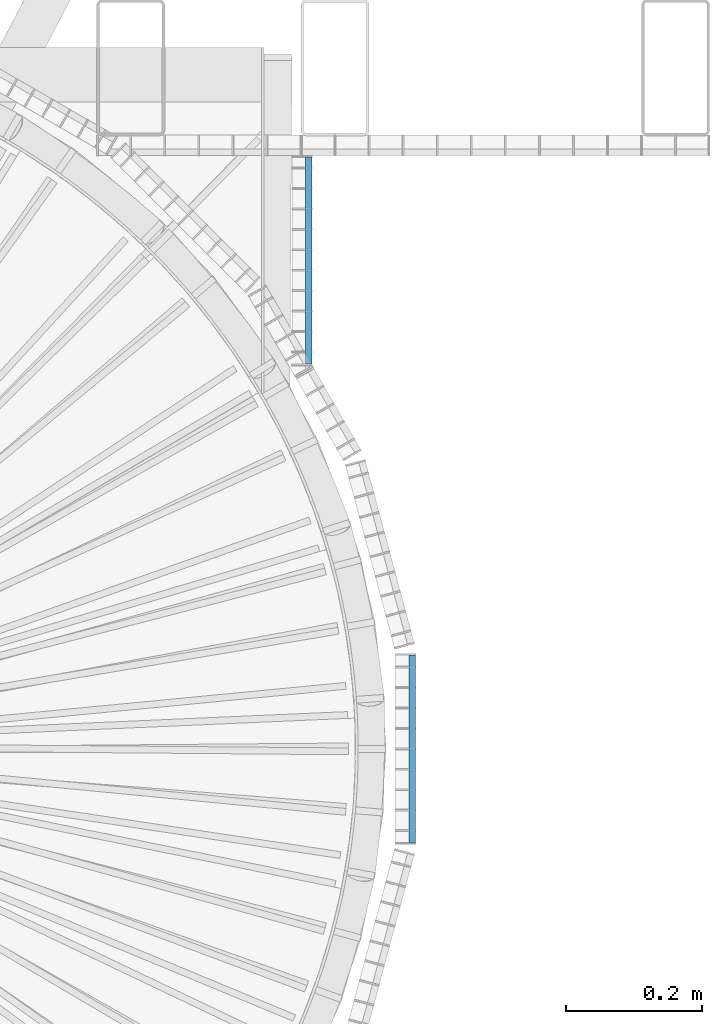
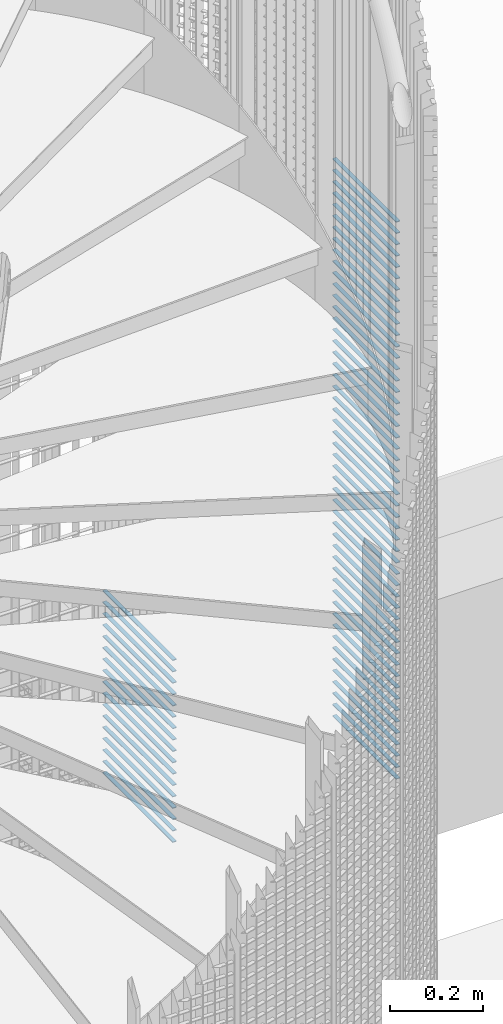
# One storey, part 278 of 1183: 67 beams, 2 elements without a shape of their own.
"""IFC2X3 building model written with IfcOpenShell, lengths in millimetres."""

from ifc_helpers import new_model, si_unit, frame, origin_with_axes, origin_2d_with_axis, place, context, subcontext, project, spatial, rectangle, extrude, material, type_object, element, aggregate, save


model = new_model("IFC2X3")

# Units and contexts
model_context = context("Model", 3, precision=1e-05, world=origin_with_axes())
body_context = subcontext(model_context, "Body", "Model", "MODEL_VIEW")
ifc_project = project(units=[si_unit("LENGTHUNIT", "METRE", prefix="MILLI"), si_unit("AREAUNIT", "SQUARE_METRE"), si_unit("VOLUMEUNIT", "CUBIC_METRE"), si_unit("MASSUNIT", "GRAM", prefix="KILO"), si_unit("TIMEUNIT", "SECOND"), si_unit("PLANEANGLEUNIT", "RADIAN"), si_unit("SOLIDANGLEUNIT", "STERADIAN"), si_unit("THERMODYNAMICTEMPERATUREUNIT", "DEGREE_CELSIUS"), si_unit("LUMINOUSINTENSITYUNIT", "LUMEN")], contexts=[model_context])

# Site, building, storey
site_placement = place(None, origin_with_axes())
site = spatial("IfcSite", under=ifc_project, at=site_placement, Name="Undefined", CompositionType="ELEMENT")
building_placement = place(site_placement, origin_with_axes())
building = spatial("IfcBuilding", under=site, at=building_placement, Name="Undefined", CompositionType="ELEMENT")
storey_placement = place(building_placement, origin_with_axes())
storey = spatial("IfcBuildingStorey", under=building, at=storey_placement, Name="Undefined", CompositionType="ELEMENT", Elevation=0.0)

# Assembly, beams
assembly_1_placement = place(storey_placement, origin_with_axes())
assembly_1 = element("IfcElementAssembly", 1, at=assembly_1_placement, inside=storey, Name="BORDURE", AssemblyPlace="NOTDEFINED", PredefinedType="NOTDEFINED")
ifc_material = material(Name="STEEL/S235JR")
beam_type = type_object("IfcBeamType", Name="PL2*10", PredefinedType="NOTDEFINED")
beam_1_placement = place(assembly_1_placement, frame((1113.47999999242, -137.996003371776, 16500.0), z_axis=(1.0, 0.0, 0.0), x_axis=(0.0, 1.0, 0.0)))
beam_1 = element("IfcBeam", 2, at=beam_1_placement, type_object=beam_type, material=ifc_material, Name="ENTRETOISE", context=body_context, shape_type="SweptSolid", body=[
    extrude(rectangle(XDim=2.0, YDim=10.0, at=origin_2d_with_axis()), frame((275.999999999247, 9.09494701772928e-13, 1.53210777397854e-14), z_axis=(-1.0, 0.0, 0.0), x_axis=(0.0, -1.0, 0.0)), (0.0, 0.0, 1.0), 276.0),
])
beam_2_placement = place(assembly_1_placement, frame((1113.47999999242, -137.996003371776, 16470.0), z_axis=(1.0, 0.0, 0.0), x_axis=(0.0, 1.0, 0.0)))
beam_2 = element("IfcBeam", 3, at=beam_2_placement, type_object=beam_type, material=ifc_material, Name="ENTRETOISE", context=body_context, shape_type="SweptSolid", body=[
    extrude(rectangle(XDim=2.0, YDim=10.0, at=origin_2d_with_axis()), frame((275.999999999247, 9.09494701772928e-13, 1.53210777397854e-14), z_axis=(-1.0, 0.0, 0.0), x_axis=(0.0, -1.0, 0.0)), (0.0, 0.0, 1.0), 276.0),
])
beam_3_placement = place(assembly_1_placement, frame((1113.47999999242, -137.996003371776, 16440.0), z_axis=(1.0, 0.0, 0.0), x_axis=(0.0, 1.0, 0.0)))
beam_3 = element("IfcBeam", 4, at=beam_3_placement, type_object=beam_type, material=ifc_material, Name="ENTRETOISE", context=body_context, shape_type="SweptSolid", body=[
    extrude(rectangle(XDim=2.0, YDim=10.0, at=origin_2d_with_axis()), frame((275.999999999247, 9.09494701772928e-13, 1.53210777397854e-14), z_axis=(-1.0, 0.0, 0.0), x_axis=(0.0, -1.0, 0.0)), (0.0, 0.0, 1.0), 276.0),
])
beam_4_placement = place(assembly_1_placement, frame((1113.47999999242, -137.996003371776, 16410.0), z_axis=(1.0, 0.0, 0.0), x_axis=(0.0, 1.0, 0.0)))
beam_4 = element("IfcBeam", 5, at=beam_4_placement, type_object=beam_type, material=ifc_material, Name="ENTRETOISE", context=body_context, shape_type="SweptSolid", body=[
    extrude(rectangle(XDim=2.0, YDim=10.0, at=origin_2d_with_axis()), frame((275.999999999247, 9.09494701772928e-13, 1.53210777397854e-14), z_axis=(-1.0, 0.0, 0.0), x_axis=(0.0, -1.0, 0.0)), (0.0, 0.0, 1.0), 276.0),
])
beam_5_placement = place(assembly_1_placement, frame((1113.47999999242, -137.996003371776, 16380.0), z_axis=(1.0, 0.0, 0.0), x_axis=(0.0, 1.0, 0.0)))
beam_5 = element("IfcBeam", 6, at=beam_5_placement, type_object=beam_type, material=ifc_material, Name="ENTRETOISE", context=body_context, shape_type="SweptSolid", body=[
    extrude(rectangle(XDim=2.0, YDim=10.0, at=origin_2d_with_axis()), frame((275.999999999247, 9.09494701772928e-13, 1.53210777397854e-14), z_axis=(-1.0, 0.0, 0.0), x_axis=(0.0, -1.0, 0.0)), (0.0, 0.0, 1.0), 276.0),
])
beam_6_placement = place(assembly_1_placement, frame((1113.47999999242, -137.996003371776, 16350.0), z_axis=(1.0, 0.0, 0.0), x_axis=(0.0, 1.0, 0.0)))
beam_6 = element("IfcBeam", 7, at=beam_6_placement, type_object=beam_type, material=ifc_material, Name="ENTRETOISE", context=body_context, shape_type="SweptSolid", body=[
    extrude(rectangle(XDim=2.0, YDim=10.0, at=origin_2d_with_axis()), frame((275.999999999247, 9.09494701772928e-13, 1.53210777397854e-14), z_axis=(-1.0, 0.0, 0.0), x_axis=(0.0, -1.0, 0.0)), (0.0, 0.0, 1.0), 276.0),
])
beam_7_placement = place(assembly_1_placement, frame((1113.47999999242, -137.996003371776, 16320.0), z_axis=(1.0, 0.0, 0.0), x_axis=(0.0, 1.0, 0.0)))
beam_7 = element("IfcBeam", 8, at=beam_7_placement, type_object=beam_type, material=ifc_material, Name="ENTRETOISE", context=body_context, shape_type="SweptSolid", body=[
    extrude(rectangle(XDim=2.0, YDim=10.0, at=origin_2d_with_axis()), frame((275.999999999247, 9.09494701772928e-13, 1.53210777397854e-14), z_axis=(-1.0, 0.0, 0.0), x_axis=(0.0, -1.0, 0.0)), (0.0, 0.0, 1.0), 276.0),
])
beam_8_placement = place(assembly_1_placement, frame((1113.47999999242, -137.996003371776, 16290.0), z_axis=(1.0, 0.0, 0.0), x_axis=(0.0, 1.0, 0.0)))
beam_8 = element("IfcBeam", 9, at=beam_8_placement, type_object=beam_type, material=ifc_material, Name="ENTRETOISE", context=body_context, shape_type="SweptSolid", body=[
    extrude(rectangle(XDim=2.0, YDim=10.0, at=origin_2d_with_axis()), frame((275.999999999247, 9.09494701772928e-13, 1.53210777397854e-14), z_axis=(-1.0, 0.0, 0.0), x_axis=(0.0, -1.0, 0.0)), (0.0, 0.0, 1.0), 276.0),
])
beam_9_placement = place(assembly_1_placement, frame((1113.47999999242, -137.996003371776, 16260.0), z_axis=(1.0, 0.0, 0.0), x_axis=(0.0, 1.0, 0.0)))
beam_9 = element("IfcBeam", 10, at=beam_9_placement, type_object=beam_type, material=ifc_material, Name="ENTRETOISE", context=body_context, shape_type="SweptSolid", body=[
    extrude(rectangle(XDim=2.0, YDim=10.0, at=origin_2d_with_axis()), frame((275.999999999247, 9.09494701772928e-13, 1.53210777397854e-14), z_axis=(-1.0, 0.0, 0.0), x_axis=(0.0, -1.0, 0.0)), (0.0, 0.0, 1.0), 276.0),
])
beam_10_placement = place(assembly_1_placement, frame((1113.47999999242, -137.996003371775, 16230.0), z_axis=(1.0, 0.0, 0.0), x_axis=(0.0, 1.0, 0.0)))
beam_10 = element("IfcBeam", 11, at=beam_10_placement, type_object=beam_type, material=ifc_material, Name="ENTRETOISE", context=body_context, shape_type="SweptSolid", body=[
    extrude(rectangle(XDim=2.0, YDim=10.0, at=origin_2d_with_axis()), frame((275.999999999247, 9.09494701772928e-13, 1.53210777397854e-14), z_axis=(-1.0, 0.0, 0.0), x_axis=(0.0, -1.0, 0.0)), (0.0, 0.0, 1.0), 276.0),
])
beam_11_placement = place(assembly_1_placement, frame((1113.47999999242, -137.996003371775, 16200.0), z_axis=(1.0, 0.0, 0.0), x_axis=(0.0, 1.0, 0.0)))
beam_11 = element("IfcBeam", 12, at=beam_11_placement, type_object=beam_type, material=ifc_material, Name="ENTRETOISE", context=body_context, shape_type="SweptSolid", body=[
    extrude(rectangle(XDim=2.0, YDim=10.0, at=origin_2d_with_axis()), frame((275.999999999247, 9.09494701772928e-13, 1.53210777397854e-14), z_axis=(-1.0, 0.0, 0.0), x_axis=(0.0, -1.0, 0.0)), (0.0, 0.0, 1.0), 276.0),
])
beam_12_placement = place(assembly_1_placement, frame((1113.47999999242, -137.996003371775, 16170.0), z_axis=(1.0, 0.0, 0.0), x_axis=(0.0, 1.0, 0.0)))
beam_12 = element("IfcBeam", 13, at=beam_12_placement, type_object=beam_type, material=ifc_material, Name="ENTRETOISE", context=body_context, shape_type="SweptSolid", body=[
    extrude(rectangle(XDim=2.0, YDim=10.0, at=origin_2d_with_axis()), frame((275.999999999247, 9.09494701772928e-13, 1.53210777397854e-14), z_axis=(-1.0, 0.0, 0.0), x_axis=(0.0, -1.0, 0.0)), (0.0, 0.0, 1.0), 276.0),
])
beam_13_placement = place(assembly_1_placement, frame((1113.47999999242, -137.996003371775, 16140.0), z_axis=(1.0, 0.0, 0.0), x_axis=(0.0, 1.0, 0.0)))
beam_13 = element("IfcBeam", 14, at=beam_13_placement, type_object=beam_type, material=ifc_material, Name="ENTRETOISE", context=body_context, shape_type="SweptSolid", body=[
    extrude(rectangle(XDim=2.0, YDim=10.0, at=origin_2d_with_axis()), frame((275.999999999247, 9.09494701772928e-13, 1.53210777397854e-14), z_axis=(-1.0, 0.0, 0.0), x_axis=(0.0, -1.0, 0.0)), (0.0, 0.0, 1.0), 276.0),
])
beam_14_placement = place(assembly_1_placement, frame((1113.47999999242, -137.996003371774, 15720.0), z_axis=(1.0, 0.0, 0.0), x_axis=(0.0, 1.0, 0.0)))
beam_14 = element("IfcBeam", 15, at=beam_14_placement, type_object=beam_type, material=ifc_material, Name="ENTRETOISE", context=body_context, shape_type="SweptSolid", body=[
    extrude(rectangle(XDim=2.0, YDim=10.0, at=origin_2d_with_axis()), frame((275.999999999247, 9.09494701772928e-13, 1.53210777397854e-14), z_axis=(-1.0, 0.0, 0.0), x_axis=(0.0, -1.0, 0.0)), (0.0, 0.0, 1.0), 276.0),
])
beam_15_placement = place(assembly_1_placement, frame((1113.47999999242, -137.996003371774, 15690.0), z_axis=(1.0, 0.0, 0.0), x_axis=(0.0, 1.0, 0.0)))
beam_15 = element("IfcBeam", 16, at=beam_15_placement, type_object=beam_type, material=ifc_material, Name="ENTRETOISE", context=body_context, shape_type="SweptSolid", body=[
    extrude(rectangle(XDim=2.0, YDim=10.0, at=origin_2d_with_axis()), frame((275.999999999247, 9.09494701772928e-13, 1.53210777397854e-14), z_axis=(-1.0, 0.0, 0.0), x_axis=(0.0, -1.0, 0.0)), (0.0, 0.0, 1.0), 276.0),
])
beam_16_placement = place(assembly_1_placement, frame((1113.47999999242, -137.996003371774, 15750.0), z_axis=(1.0, 0.0, 0.0), x_axis=(0.0, 1.0, 0.0)))
beam_16 = element("IfcBeam", 17, at=beam_16_placement, type_object=beam_type, material=ifc_material, Name="ENTRETOISE", context=body_context, shape_type="SweptSolid", body=[
    extrude(rectangle(XDim=2.0, YDim=10.0, at=origin_2d_with_axis()), frame((275.999999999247, 9.09494701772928e-13, 1.53210777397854e-14), z_axis=(-1.0, 0.0, 0.0), x_axis=(0.0, -1.0, 0.0)), (0.0, 0.0, 1.0), 276.0),
])
beam_17_placement = place(assembly_1_placement, frame((1113.47999999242, -137.996003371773, 15660.0), z_axis=(1.0, 0.0, 0.0), x_axis=(0.0, 1.0, 0.0)))
beam_17 = element("IfcBeam", 18, at=beam_17_placement, type_object=beam_type, material=ifc_material, Name="ENTRETOISE", context=body_context, shape_type="SweptSolid", body=[
    extrude(rectangle(XDim=2.0, YDim=10.0, at=origin_2d_with_axis()), frame((275.999999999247, 9.09494701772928e-13, 1.53210777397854e-14), z_axis=(-1.0, 0.0, 0.0), x_axis=(0.0, -1.0, 0.0)), (0.0, 0.0, 1.0), 276.0),
])
beam_18_placement = place(assembly_1_placement, frame((1113.47999999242, -137.996003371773, 15630.0), z_axis=(1.0, 0.0, 0.0), x_axis=(0.0, 1.0, 0.0)))
beam_18 = element("IfcBeam", 19, at=beam_18_placement, type_object=beam_type, material=ifc_material, Name="ENTRETOISE", context=body_context, shape_type="SweptSolid", body=[
    extrude(rectangle(XDim=2.0, YDim=10.0, at=origin_2d_with_axis()), frame((275.999999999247, 9.09494701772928e-13, 1.53210777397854e-14), z_axis=(-1.0, 0.0, 0.0), x_axis=(0.0, -1.0, 0.0)), (0.0, 0.0, 1.0), 276.0),
])
beam_19_placement = place(assembly_1_placement, frame((1113.47999999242, -137.996003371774, 15780.0), z_axis=(1.0, 0.0, 0.0), x_axis=(0.0, 1.0, 0.0)))
beam_19 = element("IfcBeam", 20, at=beam_19_placement, type_object=beam_type, material=ifc_material, Name="ENTRETOISE", context=body_context, shape_type="SweptSolid", body=[
    extrude(rectangle(XDim=2.0, YDim=10.0, at=origin_2d_with_axis()), frame((275.999999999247, 9.09494701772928e-13, 1.53210777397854e-14), z_axis=(-1.0, 0.0, 0.0), x_axis=(0.0, -1.0, 0.0)), (0.0, 0.0, 1.0), 276.0),
])
beam_20_placement = place(assembly_1_placement, frame((1113.47999999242, -137.996003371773, 15600.0), z_axis=(1.0, 0.0, 0.0), x_axis=(0.0, 1.0, 0.0)))
beam_20 = element("IfcBeam", 21, at=beam_20_placement, type_object=beam_type, material=ifc_material, Name="ENTRETOISE", context=body_context, shape_type="SweptSolid", body=[
    extrude(rectangle(XDim=2.0, YDim=10.0, at=origin_2d_with_axis()), frame((275.999999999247, 9.09494701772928e-13, 1.53210777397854e-14), z_axis=(-1.0, 0.0, 0.0), x_axis=(0.0, -1.0, 0.0)), (0.0, 0.0, 1.0), 276.0),
])
beam_21_placement = place(assembly_1_placement, frame((1113.47999999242, -137.996003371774, 15810.0), z_axis=(1.0, 0.0, 0.0), x_axis=(0.0, 1.0, 0.0)))
beam_21 = element("IfcBeam", 22, at=beam_21_placement, type_object=beam_type, material=ifc_material, Name="ENTRETOISE", context=body_context, shape_type="SweptSolid", body=[
    extrude(rectangle(XDim=2.0, YDim=10.0, at=origin_2d_with_axis()), frame((275.999999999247, 9.09494701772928e-13, 1.53210777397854e-14), z_axis=(-1.0, 0.0, 0.0), x_axis=(0.0, -1.0, 0.0)), (0.0, 0.0, 1.0), 276.0),
])
beam_22_placement = place(assembly_1_placement, frame((1113.47999999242, -137.996003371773, 15570.0), z_axis=(1.0, 0.0, 0.0), x_axis=(0.0, 1.0, 0.0)))
beam_22 = element("IfcBeam", 23, at=beam_22_placement, type_object=beam_type, material=ifc_material, Name="ENTRETOISE", context=body_context, shape_type="SweptSolid", body=[
    extrude(rectangle(XDim=2.0, YDim=10.0, at=origin_2d_with_axis()), frame((275.999999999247, 9.09494701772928e-13, 1.53210777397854e-14), z_axis=(-1.0, 0.0, 0.0), x_axis=(0.0, -1.0, 0.0)), (0.0, 0.0, 1.0), 276.0),
])
beam_23_placement = place(assembly_1_placement, frame((1113.47999999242, -137.996003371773, 15540.0), z_axis=(1.0, 0.0, 0.0), x_axis=(0.0, 1.0, 0.0)))
beam_23 = element("IfcBeam", 24, at=beam_23_placement, type_object=beam_type, material=ifc_material, Name="ENTRETOISE", context=body_context, shape_type="SweptSolid", body=[
    extrude(rectangle(XDim=2.0, YDim=10.0, at=origin_2d_with_axis()), frame((275.999999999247, 9.09494701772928e-13, 1.53210777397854e-14), z_axis=(-1.0, 0.0, 0.0), x_axis=(0.0, -1.0, 0.0)), (0.0, 0.0, 1.0), 276.0),
])
beam_24_placement = place(assembly_1_placement, frame((1113.47999999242, -137.996003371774, 15840.0), z_axis=(1.0, 0.0, 0.0), x_axis=(0.0, 1.0, 0.0)))
beam_24 = element("IfcBeam", 25, at=beam_24_placement, type_object=beam_type, material=ifc_material, Name="ENTRETOISE", context=body_context, shape_type="SweptSolid", body=[
    extrude(rectangle(XDim=2.0, YDim=10.0, at=origin_2d_with_axis()), frame((275.999999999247, 9.09494701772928e-13, 1.53210777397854e-14), z_axis=(-1.0, 0.0, 0.0), x_axis=(0.0, -1.0, 0.0)), (0.0, 0.0, 1.0), 276.0),
])
beam_25_placement = place(assembly_1_placement, frame((1113.47999999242, -137.996003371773, 15510.0), z_axis=(1.0, 0.0, 0.0), x_axis=(0.0, 1.0, 0.0)))
beam_25 = element("IfcBeam", 26, at=beam_25_placement, type_object=beam_type, material=ifc_material, Name="ENTRETOISE", context=body_context, shape_type="SweptSolid", body=[
    extrude(rectangle(XDim=2.0, YDim=10.0, at=origin_2d_with_axis()), frame((275.999999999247, 9.09494701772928e-13, 1.53210777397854e-14), z_axis=(-1.0, 0.0, 0.0), x_axis=(0.0, -1.0, 0.0)), (0.0, 0.0, 1.0), 276.0),
])
beam_26_placement = place(assembly_1_placement, frame((1113.47999999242, -137.996003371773, 15480.0), z_axis=(1.0, 0.0, 0.0), x_axis=(0.0, 1.0, 0.0)))
beam_26 = element("IfcBeam", 27, at=beam_26_placement, type_object=beam_type, material=ifc_material, Name="ENTRETOISE", context=body_context, shape_type="SweptSolid", body=[
    extrude(rectangle(XDim=2.0, YDim=10.0, at=origin_2d_with_axis()), frame((275.999999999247, 9.09494701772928e-13, 1.53210777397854e-14), z_axis=(-1.0, 0.0, 0.0), x_axis=(0.0, -1.0, 0.0)), (0.0, 0.0, 1.0), 276.0),
])
beam_27_placement = place(assembly_1_placement, frame((1113.47999999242, -137.996003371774, 15870.0), z_axis=(1.0, 0.0, 0.0), x_axis=(0.0, 1.0, 0.0)))
beam_27 = element("IfcBeam", 28, at=beam_27_placement, type_object=beam_type, material=ifc_material, Name="ENTRETOISE", context=body_context, shape_type="SweptSolid", body=[
    extrude(rectangle(XDim=2.0, YDim=10.0, at=origin_2d_with_axis()), frame((275.999999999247, 9.09494701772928e-13, 1.53210777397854e-14), z_axis=(-1.0, 0.0, 0.0), x_axis=(0.0, -1.0, 0.0)), (0.0, 0.0, 1.0), 276.0),
])
beam_28_placement = place(assembly_1_placement, frame((1113.47999999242, -137.996003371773, 15450.0), z_axis=(1.0, 0.0, 0.0), x_axis=(0.0, 1.0, 0.0)))
beam_28 = element("IfcBeam", 29, at=beam_28_placement, type_object=beam_type, material=ifc_material, Name="ENTRETOISE", context=body_context, shape_type="SweptSolid", body=[
    extrude(rectangle(XDim=2.0, YDim=10.0, at=origin_2d_with_axis()), frame((275.999999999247, 9.09494701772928e-13, 1.53210777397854e-14), z_axis=(-1.0, 0.0, 0.0), x_axis=(0.0, -1.0, 0.0)), (0.0, 0.0, 1.0), 276.0),
])
beam_29_placement = place(assembly_1_placement, frame((1113.47999999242, -137.996003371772, 15420.0), z_axis=(1.0, 0.0, 0.0), x_axis=(0.0, 1.0, 0.0)))
beam_29 = element("IfcBeam", 30, at=beam_29_placement, type_object=beam_type, material=ifc_material, Name="ENTRETOISE", context=body_context, shape_type="SweptSolid", body=[
    extrude(rectangle(XDim=2.0, YDim=10.0, at=origin_2d_with_axis()), frame((275.999999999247, 9.09494701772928e-13, 1.53210777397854e-14), z_axis=(-1.0, 0.0, 0.0), x_axis=(0.0, -1.0, 0.0)), (0.0, 0.0, 1.0), 276.0),
])
beam_30_placement = place(assembly_1_placement, frame((1113.47999999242, -137.996003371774, 15900.0), z_axis=(1.0, 0.0, 0.0), x_axis=(0.0, 1.0, 0.0)))
beam_30 = element("IfcBeam", 31, at=beam_30_placement, type_object=beam_type, material=ifc_material, Name="ENTRETOISE", context=body_context, shape_type="SweptSolid", body=[
    extrude(rectangle(XDim=2.0, YDim=10.0, at=origin_2d_with_axis()), frame((275.999999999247, 9.09494701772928e-13, 1.53210777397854e-14), z_axis=(-1.0, 0.0, 0.0), x_axis=(0.0, -1.0, 0.0)), (0.0, 0.0, 1.0), 276.0),
])
beam_31_placement = place(assembly_1_placement, frame((1113.47999999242, -137.996003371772, 15390.0), z_axis=(1.0, 0.0, 0.0), x_axis=(0.0, 1.0, 0.0)))
beam_31 = element("IfcBeam", 32, at=beam_31_placement, type_object=beam_type, material=ifc_material, Name="ENTRETOISE", context=body_context, shape_type="SweptSolid", body=[
    extrude(rectangle(XDim=2.0, YDim=10.0, at=origin_2d_with_axis()), frame((275.999999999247, 9.09494701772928e-13, 1.53210777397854e-14), z_axis=(-1.0, 0.0, 0.0), x_axis=(0.0, -1.0, 0.0)), (0.0, 0.0, 1.0), 276.0),
])
beam_32_placement = place(assembly_1_placement, frame((1113.47999999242, -137.996003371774, 15930.0), z_axis=(1.0, 0.0, 0.0), x_axis=(0.0, 1.0, 0.0)))
beam_32 = element("IfcBeam", 33, at=beam_32_placement, type_object=beam_type, material=ifc_material, Name="ENTRETOISE", context=body_context, shape_type="SweptSolid", body=[
    extrude(rectangle(XDim=2.0, YDim=10.0, at=origin_2d_with_axis()), frame((275.999999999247, 9.09494701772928e-13, 1.53210777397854e-14), z_axis=(-1.0, 0.0, 0.0), x_axis=(0.0, -1.0, 0.0)), (0.0, 0.0, 1.0), 276.0),
])
beam_33_placement = place(assembly_1_placement, frame((1113.47999999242, -137.996003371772, 15360.0), z_axis=(1.0, 0.0, 0.0), x_axis=(0.0, 1.0, 0.0)))
beam_33 = element("IfcBeam", 34, at=beam_33_placement, type_object=beam_type, material=ifc_material, Name="ENTRETOISE", context=body_context, shape_type="SweptSolid", body=[
    extrude(rectangle(XDim=2.0, YDim=10.0, at=origin_2d_with_axis()), frame((275.999999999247, 9.09494701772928e-13, 1.53210777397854e-14), z_axis=(-1.0, 0.0, 0.0), x_axis=(0.0, -1.0, 0.0)), (0.0, 0.0, 1.0), 276.0),
])
beam_34_placement = place(assembly_1_placement, frame((1113.47999999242, -137.996003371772, 15330.0), z_axis=(1.0, 0.0, 0.0), x_axis=(0.0, 1.0, 0.0)))
beam_34 = element("IfcBeam", 35, at=beam_34_placement, type_object=beam_type, material=ifc_material, Name="ENTRETOISE", context=body_context, shape_type="SweptSolid", body=[
    extrude(rectangle(XDim=2.0, YDim=10.0, at=origin_2d_with_axis()), frame((275.999999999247, 9.09494701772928e-13, 1.53210777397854e-14), z_axis=(-1.0, 0.0, 0.0), x_axis=(0.0, -1.0, 0.0)), (0.0, 0.0, 1.0), 276.0),
])
beam_35_placement = place(assembly_1_placement, frame((1113.47999999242, -137.996003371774, 15960.0), z_axis=(1.0, 0.0, 0.0), x_axis=(0.0, 1.0, 0.0)))
beam_35 = element("IfcBeam", 36, at=beam_35_placement, type_object=beam_type, material=ifc_material, Name="ENTRETOISE", context=body_context, shape_type="SweptSolid", body=[
    extrude(rectangle(XDim=2.0, YDim=10.0, at=origin_2d_with_axis()), frame((275.999999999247, 9.09494701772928e-13, 1.53210777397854e-14), z_axis=(-1.0, 0.0, 0.0), x_axis=(0.0, -1.0, 0.0)), (0.0, 0.0, 1.0), 276.0),
])
beam_36_placement = place(assembly_1_placement, frame((1113.47999999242, -137.996003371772, 15300.0), z_axis=(1.0, 0.0, 0.0), x_axis=(0.0, 1.0, 0.0)))
beam_36 = element("IfcBeam", 37, at=beam_36_placement, type_object=beam_type, material=ifc_material, Name="ENTRETOISE", context=body_context, shape_type="SweptSolid", body=[
    extrude(rectangle(XDim=2.0, YDim=10.0, at=origin_2d_with_axis()), frame((275.999999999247, 9.09494701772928e-13, 1.53210777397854e-14), z_axis=(-1.0, 0.0, 0.0), x_axis=(0.0, -1.0, 0.0)), (0.0, 0.0, 1.0), 276.0),
])
beam_37_placement = place(assembly_1_placement, frame((1113.47999999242, -137.996003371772, 15270.0), z_axis=(1.0, 0.0, 0.0), x_axis=(0.0, 1.0, 0.0)))
beam_37 = element("IfcBeam", 38, at=beam_37_placement, type_object=beam_type, material=ifc_material, Name="ENTRETOISE", context=body_context, shape_type="SweptSolid", body=[
    extrude(rectangle(XDim=2.0, YDim=10.0, at=origin_2d_with_axis()), frame((275.999999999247, 9.09494701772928e-13, 1.53210777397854e-14), z_axis=(-1.0, 0.0, 0.0), x_axis=(0.0, -1.0, 0.0)), (0.0, 0.0, 1.0), 276.0),
])
beam_38_placement = place(assembly_1_placement, frame((1113.47999999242, -137.996003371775, 15990.0), z_axis=(1.0, 0.0, 0.0), x_axis=(0.0, 1.0, 0.0)))
beam_38 = element("IfcBeam", 39, at=beam_38_placement, type_object=beam_type, material=ifc_material, Name="ENTRETOISE", context=body_context, shape_type="SweptSolid", body=[
    extrude(rectangle(XDim=2.0, YDim=10.0, at=origin_2d_with_axis()), frame((275.999999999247, 9.09494701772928e-13, 1.53210777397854e-14), z_axis=(-1.0, 0.0, 0.0), x_axis=(0.0, -1.0, 0.0)), (0.0, 0.0, 1.0), 276.0),
])
beam_39_placement = place(assembly_1_placement, frame((1113.47999999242, -137.996003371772, 15240.0), z_axis=(1.0, 0.0, 0.0), x_axis=(0.0, 1.0, 0.0)))
beam_39 = element("IfcBeam", 40, at=beam_39_placement, type_object=beam_type, material=ifc_material, Name="ENTRETOISE", context=body_context, shape_type="SweptSolid", body=[
    extrude(rectangle(XDim=2.0, YDim=10.0, at=origin_2d_with_axis()), frame((275.999999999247, 9.09494701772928e-13, 1.53210777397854e-14), z_axis=(-1.0, 0.0, 0.0), x_axis=(0.0, -1.0, 0.0)), (0.0, 0.0, 1.0), 276.0),
])
beam_40_placement = place(assembly_1_placement, frame((1113.47999999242, -137.996003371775, 16020.0), z_axis=(1.0, 0.0, 0.0), x_axis=(0.0, 1.0, 0.0)))
beam_40 = element("IfcBeam", 41, at=beam_40_placement, type_object=beam_type, material=ifc_material, Name="ENTRETOISE", context=body_context, shape_type="SweptSolid", body=[
    extrude(rectangle(XDim=2.0, YDim=10.0, at=origin_2d_with_axis()), frame((275.999999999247, 9.09494701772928e-13, 1.53210777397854e-14), z_axis=(-1.0, 0.0, 0.0), x_axis=(0.0, -1.0, 0.0)), (0.0, 0.0, 1.0), 276.0),
])
beam_41_placement = place(assembly_1_placement, frame((1113.47999999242, -137.996003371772, 15210.0), z_axis=(1.0, 0.0, 0.0), x_axis=(0.0, 1.0, 0.0)))
beam_41 = element("IfcBeam", 42, at=beam_41_placement, type_object=beam_type, material=ifc_material, Name="ENTRETOISE", context=body_context, shape_type="SweptSolid", body=[
    extrude(rectangle(XDim=2.0, YDim=10.0, at=origin_2d_with_axis()), frame((275.999999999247, 9.09494701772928e-13, 1.53210777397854e-14), z_axis=(-1.0, 0.0, 0.0), x_axis=(0.0, -1.0, 0.0)), (0.0, 0.0, 1.0), 276.0),
])
beam_42_placement = place(assembly_1_placement, frame((1113.47999999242, -137.996003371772, 15180.0), z_axis=(1.0, 0.0, 0.0), x_axis=(0.0, 1.0, 0.0)))
beam_42 = element("IfcBeam", 43, at=beam_42_placement, type_object=beam_type, material=ifc_material, Name="ENTRETOISE", context=body_context, shape_type="SweptSolid", body=[
    extrude(rectangle(XDim=2.0, YDim=10.0, at=origin_2d_with_axis()), frame((275.999999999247, 9.09494701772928e-13, 1.53210777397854e-14), z_axis=(-1.0, 0.0, 0.0), x_axis=(0.0, -1.0, 0.0)), (0.0, 0.0, 1.0), 276.0),
])
beam_43_placement = place(assembly_1_placement, frame((1113.47999999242, -137.996003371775, 16050.0), z_axis=(1.0, 0.0, 0.0), x_axis=(0.0, 1.0, 0.0)))
beam_43 = element("IfcBeam", 44, at=beam_43_placement, type_object=beam_type, material=ifc_material, Name="ENTRETOISE", context=body_context, shape_type="SweptSolid", body=[
    extrude(rectangle(XDim=2.0, YDim=10.0, at=origin_2d_with_axis()), frame((275.999999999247, 9.09494701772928e-13, 1.53210777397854e-14), z_axis=(-1.0, 0.0, 0.0), x_axis=(0.0, -1.0, 0.0)), (0.0, 0.0, 1.0), 276.0),
])
beam_44_placement = place(assembly_1_placement, frame((1113.47999999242, -137.996003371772, 15150.0), z_axis=(1.0, 0.0, 0.0), x_axis=(0.0, 1.0, 0.0)))
beam_44 = element("IfcBeam", 45, at=beam_44_placement, type_object=beam_type, material=ifc_material, Name="ENTRETOISE", context=body_context, shape_type="SweptSolid", body=[
    extrude(rectangle(XDim=2.0, YDim=10.0, at=origin_2d_with_axis()), frame((275.999999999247, 9.09494701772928e-13, 1.53210777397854e-14), z_axis=(-1.0, 0.0, 0.0), x_axis=(0.0, -1.0, 0.0)), (0.0, 0.0, 1.0), 276.0),
])
beam_45_placement = place(assembly_1_placement, frame((1113.47999999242, -137.996003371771, 15120.0), z_axis=(1.0, 0.0, 0.0), x_axis=(0.0, 1.0, 0.0)))
beam_45 = element("IfcBeam", 46, at=beam_45_placement, type_object=beam_type, material=ifc_material, Name="ENTRETOISE", context=body_context, shape_type="SweptSolid", body=[
    extrude(rectangle(XDim=2.0, YDim=10.0, at=origin_2d_with_axis()), frame((275.999999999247, 9.09494701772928e-13, 1.53210777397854e-14), z_axis=(-1.0, 0.0, 0.0), x_axis=(0.0, -1.0, 0.0)), (0.0, 0.0, 1.0), 276.0),
])
beam_46_placement = place(assembly_1_placement, frame((1113.47999999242, -137.996003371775, 16080.0), z_axis=(1.0, 0.0, 0.0), x_axis=(0.0, 1.0, 0.0)))
beam_46 = element("IfcBeam", 47, at=beam_46_placement, type_object=beam_type, material=ifc_material, Name="ENTRETOISE", context=body_context, shape_type="SweptSolid", body=[
    extrude(rectangle(XDim=2.0, YDim=10.0, at=origin_2d_with_axis()), frame((275.999999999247, 9.09494701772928e-13, 1.53210777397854e-14), z_axis=(-1.0, 0.0, 0.0), x_axis=(0.0, -1.0, 0.0)), (0.0, 0.0, 1.0), 276.0),
])
beam_47_placement = place(assembly_1_placement, frame((1113.47999999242, -137.996003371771, 15090.0), z_axis=(1.0, 0.0, 0.0), x_axis=(0.0, 1.0, 0.0)))
beam_47 = element("IfcBeam", 48, at=beam_47_placement, type_object=beam_type, material=ifc_material, Name="ENTRETOISE", context=body_context, shape_type="SweptSolid", body=[
    extrude(rectangle(XDim=2.0, YDim=10.0, at=origin_2d_with_axis()), frame((275.999999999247, 9.09494701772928e-13, 1.53210777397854e-14), z_axis=(-1.0, 0.0, 0.0), x_axis=(0.0, -1.0, 0.0)), (0.0, 0.0, 1.0), 276.0),
])
beam_48_placement = place(assembly_1_placement, frame((1113.47999999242, -137.996003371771, 15060.0), z_axis=(1.0, 0.0, 0.0), x_axis=(0.0, 1.0, 0.0)))
beam_48 = element("IfcBeam", 49, at=beam_48_placement, type_object=beam_type, material=ifc_material, Name="ENTRETOISE", context=body_context, shape_type="SweptSolid", body=[
    extrude(rectangle(XDim=2.0, YDim=10.0, at=origin_2d_with_axis()), frame((275.999999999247, 9.09494701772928e-13, 1.53210777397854e-14), z_axis=(-1.0, 0.0, 0.0), x_axis=(0.0, -1.0, 0.0)), (0.0, 0.0, 1.0), 276.0),
])
beam_49_placement = place(assembly_1_placement, frame((1113.47999999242, -137.996003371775, 16110.0), z_axis=(1.0, 0.0, 0.0), x_axis=(0.0, 1.0, 0.0)))
beam_49 = element("IfcBeam", 50, at=beam_49_placement, type_object=beam_type, material=ifc_material, Name="ENTRETOISE", context=body_context, shape_type="SweptSolid", body=[
    extrude(rectangle(XDim=2.0, YDim=10.0, at=origin_2d_with_axis()), frame((275.999999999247, 9.09494701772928e-13, 1.53210777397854e-14), z_axis=(-1.0, 0.0, 0.0), x_axis=(0.0, -1.0, 0.0)), (0.0, 0.0, 1.0), 276.0),
])
beam_50_placement = place(assembly_1_placement, frame((1113.47999999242, -137.99600337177, 15030.0), z_axis=(1.0, 0.0, 0.0), x_axis=(0.0, 1.0, 0.0)))
beam_50 = element("IfcBeam", 51, at=beam_50_placement, type_object=beam_type, material=ifc_material, Name="ENTRETOISE", context=body_context, shape_type="SweptSolid", body=[
    extrude(rectangle(XDim=2.0, YDim=10.0, at=origin_2d_with_axis()), frame((275.999999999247, 9.09494701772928e-13, 1.53210777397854e-14), z_axis=(-1.0, 0.0, 0.0), x_axis=(0.0, -1.0, 0.0)), (0.0, 0.0, 1.0), 276.0),
])
aggregate(assembly_1, [beam_1, beam_2, beam_3, beam_4, beam_5, beam_6, beam_7, beam_8, beam_9, beam_10, beam_11, beam_12, beam_13, beam_14, beam_15, beam_16, beam_17, beam_18, beam_19, beam_20, beam_21, beam_22, beam_23, beam_24, beam_25, beam_26, beam_27, beam_28, beam_29, beam_30, beam_31, beam_32, beam_33, beam_34, beam_35, beam_36, beam_37, beam_38, beam_39, beam_40, beam_41, beam_42, beam_43, beam_44, beam_45, beam_46, beam_47, beam_48, beam_49, beam_50])

assembly_2_placement = place(storey_placement, origin_with_axes())
assembly_2 = element("IfcElementAssembly", 52, at=assembly_2_placement, inside=storey, Name="BORDURE", AssemblyPlace="NOTDEFINED", PredefinedType="NOTDEFINED")
beam_51_placement = place(assembly_2_placement, frame((961.586915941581, 564.78266928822, 14970.0), z_axis=(1.0, 0.0, 0.0), x_axis=(0.0, 1.0, 0.0)))
beam_51 = element("IfcBeam", 53, at=beam_51_placement, type_object=beam_type, material=ifc_material, Name="ENTRETOISE", context=body_context, shape_type="SweptSolid", body=[
    extrude(rectangle(XDim=2.0, YDim=10.0, at=origin_2d_with_axis()), frame((303.999999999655, 0.0, 0.0), z_axis=(-1.0, 0.0, 0.0), x_axis=(0.0, -1.0, 0.0)), (0.0, 0.0, 1.0), 304.0),
])
beam_52_placement = place(assembly_2_placement, frame((961.586915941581, 564.78266928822, 14940.0), z_axis=(1.0, 0.0, 0.0), x_axis=(0.0, 1.0, 0.0)))
beam_52 = element("IfcBeam", 54, at=beam_52_placement, type_object=beam_type, material=ifc_material, Name="ENTRETOISE", context=body_context, shape_type="SweptSolid", body=[
    extrude(rectangle(XDim=2.0, YDim=10.0, at=origin_2d_with_axis()), frame((303.999999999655, 0.0, 0.0), z_axis=(-1.0, 0.0, 0.0), x_axis=(0.0, -1.0, 0.0)), (0.0, 0.0, 1.0), 304.0),
])
beam_53_placement = place(assembly_2_placement, frame((961.586915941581, 564.78266928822, 14910.0), z_axis=(1.0, 0.0, 0.0), x_axis=(0.0, 1.0, 0.0)))
beam_53 = element("IfcBeam", 55, at=beam_53_placement, type_object=beam_type, material=ifc_material, Name="ENTRETOISE", context=body_context, shape_type="SweptSolid", body=[
    extrude(rectangle(XDim=2.0, YDim=10.0, at=origin_2d_with_axis()), frame((303.999999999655, 0.0, 0.0), z_axis=(-1.0, 0.0, 0.0), x_axis=(0.0, -1.0, 0.0)), (0.0, 0.0, 1.0), 304.0),
])
beam_54_placement = place(assembly_2_placement, frame((961.586915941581, 564.782669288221, 14880.0), z_axis=(1.0, 0.0, 0.0), x_axis=(0.0, 1.0, 0.0)))
beam_54 = element("IfcBeam", 56, at=beam_54_placement, type_object=beam_type, material=ifc_material, Name="ENTRETOISE", context=body_context, shape_type="SweptSolid", body=[
    extrude(rectangle(XDim=2.0, YDim=10.0, at=origin_2d_with_axis()), frame((303.999999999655, 0.0, 0.0), z_axis=(-1.0, 0.0, 0.0), x_axis=(0.0, -1.0, 0.0)), (0.0, 0.0, 1.0), 304.0),
])
beam_55_placement = place(assembly_2_placement, frame((961.586915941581, 564.78266928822, 14850.0), z_axis=(1.0, 0.0, 0.0), x_axis=(0.0, 1.0, 0.0)))
beam_55 = element("IfcBeam", 57, at=beam_55_placement, type_object=beam_type, material=ifc_material, Name="ENTRETOISE", context=body_context, shape_type="SweptSolid", body=[
    extrude(rectangle(XDim=2.0, YDim=10.0, at=origin_2d_with_axis()), frame((303.999999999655, 0.0, 0.0), z_axis=(-1.0, 0.0, 0.0), x_axis=(0.0, -1.0, 0.0)), (0.0, 0.0, 1.0), 304.0),
])
beam_56_placement = place(assembly_2_placement, frame((961.586915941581, 564.78266928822, 14820.0), z_axis=(1.0, 0.0, 0.0), x_axis=(0.0, 1.0, 0.0)))
beam_56 = element("IfcBeam", 58, at=beam_56_placement, type_object=beam_type, material=ifc_material, Name="ENTRETOISE", context=body_context, shape_type="SweptSolid", body=[
    extrude(rectangle(XDim=2.0, YDim=10.0, at=origin_2d_with_axis()), frame((303.999999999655, 0.0, 0.0), z_axis=(-1.0, 0.0, 0.0), x_axis=(0.0, -1.0, 0.0)), (0.0, 0.0, 1.0), 304.0),
])
beam_57_placement = place(assembly_2_placement, frame((961.586915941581, 564.782669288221, 14790.0), z_axis=(1.0, 0.0, 0.0), x_axis=(0.0, 1.0, 0.0)))
beam_57 = element("IfcBeam", 59, at=beam_57_placement, type_object=beam_type, material=ifc_material, Name="ENTRETOISE", context=body_context, shape_type="SweptSolid", body=[
    extrude(rectangle(XDim=2.0, YDim=10.0, at=origin_2d_with_axis()), frame((303.999999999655, 0.0, 0.0), z_axis=(-1.0, 0.0, 0.0), x_axis=(0.0, -1.0, 0.0)), (0.0, 0.0, 1.0), 304.0),
])
beam_58_placement = place(assembly_2_placement, frame((961.586915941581, 564.782669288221, 14760.0), z_axis=(1.0, 0.0, 0.0), x_axis=(0.0, 1.0, 0.0)))
beam_58 = element("IfcBeam", 60, at=beam_58_placement, type_object=beam_type, material=ifc_material, Name="ENTRETOISE", context=body_context, shape_type="SweptSolid", body=[
    extrude(rectangle(XDim=2.0, YDim=10.0, at=origin_2d_with_axis()), frame((303.999999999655, 0.0, 0.0), z_axis=(-1.0, 0.0, 0.0), x_axis=(0.0, -1.0, 0.0)), (0.0, 0.0, 1.0), 304.0),
])
beam_59_placement = place(assembly_2_placement, frame((961.586915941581, 564.782669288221, 14730.0), z_axis=(1.0, 0.0, 0.0), x_axis=(0.0, 1.0, 0.0)))
beam_59 = element("IfcBeam", 61, at=beam_59_placement, type_object=beam_type, material=ifc_material, Name="ENTRETOISE", context=body_context, shape_type="SweptSolid", body=[
    extrude(rectangle(XDim=2.0, YDim=10.0, at=origin_2d_with_axis()), frame((303.999999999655, 0.0, 0.0), z_axis=(-1.0, 0.0, 0.0), x_axis=(0.0, -1.0, 0.0)), (0.0, 0.0, 1.0), 304.0),
])
beam_60_placement = place(assembly_2_placement, frame((961.586915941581, 564.782669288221, 14700.0), z_axis=(1.0, 0.0, 0.0), x_axis=(0.0, 1.0, 0.0)))
beam_60 = element("IfcBeam", 62, at=beam_60_placement, type_object=beam_type, material=ifc_material, Name="ENTRETOISE", context=body_context, shape_type="SweptSolid", body=[
    extrude(rectangle(XDim=2.0, YDim=10.0, at=origin_2d_with_axis()), frame((303.999999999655, 0.0, 0.0), z_axis=(-1.0, 0.0, 0.0), x_axis=(0.0, -1.0, 0.0)), (0.0, 0.0, 1.0), 304.0),
])
beam_61_placement = place(assembly_2_placement, frame((961.586915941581, 564.782669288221, 14670.0), z_axis=(1.0, 0.0, 0.0), x_axis=(0.0, 1.0, 0.0)))
beam_61 = element("IfcBeam", 63, at=beam_61_placement, type_object=beam_type, material=ifc_material, Name="ENTRETOISE", context=body_context, shape_type="SweptSolid", body=[
    extrude(rectangle(XDim=2.0, YDim=10.0, at=origin_2d_with_axis()), frame((303.999999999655, 0.0, 0.0), z_axis=(-1.0, 0.0, 0.0), x_axis=(0.0, -1.0, 0.0)), (0.0, 0.0, 1.0), 304.0),
])
beam_62_placement = place(assembly_2_placement, frame((961.586915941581, 564.782669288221, 14640.0), z_axis=(1.0, 0.0, 0.0), x_axis=(0.0, 1.0, 0.0)))
beam_62 = element("IfcBeam", 64, at=beam_62_placement, type_object=beam_type, material=ifc_material, Name="ENTRETOISE", context=body_context, shape_type="SweptSolid", body=[
    extrude(rectangle(XDim=2.0, YDim=10.0, at=origin_2d_with_axis()), frame((303.999999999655, 0.0, 0.0), z_axis=(-1.0, 0.0, 0.0), x_axis=(0.0, -1.0, 0.0)), (0.0, 0.0, 1.0), 304.0),
])
beam_63_placement = place(assembly_2_placement, frame((961.586915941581, 564.782669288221, 14610.0), z_axis=(1.0, 0.0, 0.0), x_axis=(0.0, 1.0, 0.0)))
beam_63 = element("IfcBeam", 65, at=beam_63_placement, type_object=beam_type, material=ifc_material, Name="ENTRETOISE", context=body_context, shape_type="SweptSolid", body=[
    extrude(rectangle(XDim=2.0, YDim=10.0, at=origin_2d_with_axis()), frame((303.999999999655, 0.0, 0.0), z_axis=(-1.0, 0.0, 0.0), x_axis=(0.0, -1.0, 0.0)), (0.0, 0.0, 1.0), 304.0),
])
beam_64_placement = place(assembly_2_placement, frame((961.586915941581, 564.782669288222, 14580.0), z_axis=(1.0, 0.0, 0.0), x_axis=(0.0, 1.0, 0.0)))
beam_64 = element("IfcBeam", 66, at=beam_64_placement, type_object=beam_type, material=ifc_material, Name="ENTRETOISE", context=body_context, shape_type="SweptSolid", body=[
    extrude(rectangle(XDim=2.0, YDim=10.0, at=origin_2d_with_axis()), frame((303.999999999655, 0.0, 0.0), z_axis=(-1.0, 0.0, 0.0), x_axis=(0.0, -1.0, 0.0)), (0.0, 0.0, 1.0), 304.0),
])
beam_65_placement = place(assembly_2_placement, frame((961.586915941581, 564.782669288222, 14550.0), z_axis=(1.0, 0.0, 0.0), x_axis=(0.0, 1.0, 0.0)))
beam_65 = element("IfcBeam", 67, at=beam_65_placement, type_object=beam_type, material=ifc_material, Name="ENTRETOISE", context=body_context, shape_type="SweptSolid", body=[
    extrude(rectangle(XDim=2.0, YDim=10.0, at=origin_2d_with_axis()), frame((303.999999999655, 0.0, 0.0), z_axis=(-1.0, 0.0, 0.0), x_axis=(0.0, -1.0, 0.0)), (0.0, 0.0, 1.0), 304.0),
])
beam_66_placement = place(assembly_2_placement, frame((961.586915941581, 564.782669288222, 14520.0), z_axis=(1.0, 0.0, 0.0), x_axis=(0.0, 1.0, 0.0)))
beam_66 = element("IfcBeam", 68, at=beam_66_placement, type_object=beam_type, material=ifc_material, Name="ENTRETOISE", context=body_context, shape_type="SweptSolid", body=[
    extrude(rectangle(XDim=2.0, YDim=10.0, at=origin_2d_with_axis()), frame((303.999999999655, 0.0, 0.0), z_axis=(-1.0, 0.0, 0.0), x_axis=(0.0, -1.0, 0.0)), (0.0, 0.0, 1.0), 304.0),
])
beam_67_placement = place(assembly_2_placement, frame((961.586915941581, 564.782669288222, 14490.0), z_axis=(1.0, 0.0, 0.0), x_axis=(0.0, 1.0, 0.0)))
beam_67 = element("IfcBeam", 69, at=beam_67_placement, type_object=beam_type, material=ifc_material, Name="ENTRETOISE", context=body_context, shape_type="SweptSolid", body=[
    extrude(rectangle(XDim=2.0, YDim=10.0, at=origin_2d_with_axis()), frame((303.999999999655, 0.0, 0.0), z_axis=(-1.0, 0.0, 0.0), x_axis=(0.0, -1.0, 0.0)), (0.0, 0.0, 1.0), 304.0),
])
aggregate(assembly_2, [beam_51, beam_52, beam_53, beam_54, beam_55, beam_56, beam_57, beam_58, beam_59, beam_60, beam_61, beam_62, beam_63, beam_64, beam_65, beam_66, beam_67])

save(model, "model.ifc")
